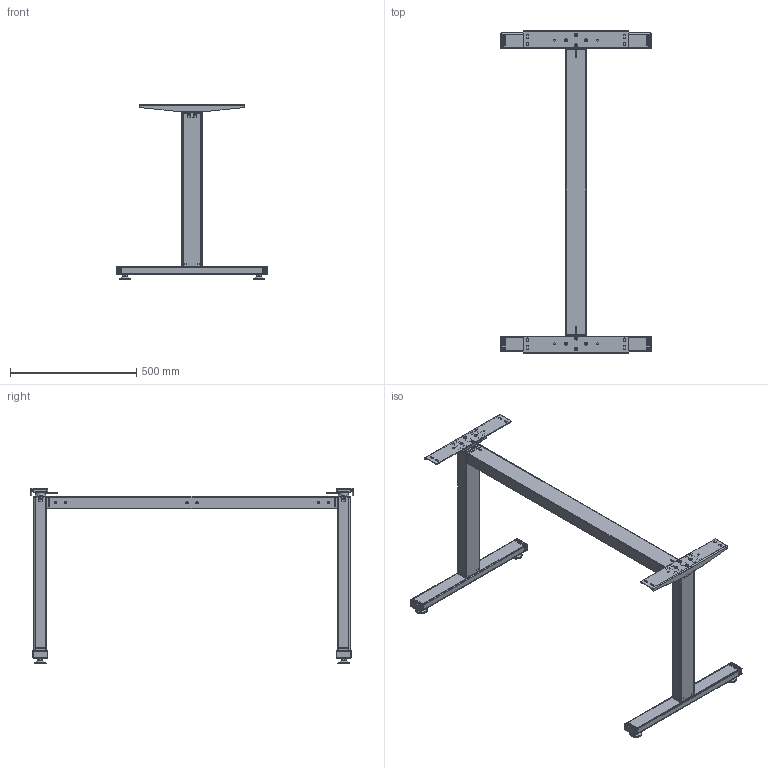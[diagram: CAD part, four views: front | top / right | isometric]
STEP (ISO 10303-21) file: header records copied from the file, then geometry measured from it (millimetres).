
FILE_DESCRIPTION(/* description */ ('Unknown'),/* implementation_level */ '2;1');
FILE_NAME(/* name */ '108.00032_02-Eingefahren',/* time_stamp */ '2022-02-09T10:58:15+01:00',/* author */ ('Unknown'),/* organization */ ('Unknown'),/* preprocessor_version */ 'ST-DEVELOPER v18.1',/* originating_system */ 'Solid Edge',/* authorisation */ 'Unknown');
FILE_SCHEMA (('AUTOMOTIVE_DESIGN {1 0 10303 214 3 1 1}'));
Length unit declared in the file: millimetre
Products named in the file (35): 108.00032; 306.00090_oa_0; 124.00004; 107.00147_oa_1; 115.00007_oa_2; 127.00038; 127.00034_oa_3; Aussenprofil TA 1450; 127.00032; 127.00035; Innenprofil TA 1450; Abschlussplatte; 127.00048; Schraube 2,9x6,4; 127.00034_2’403_2’488_Kehlnaht 1_oa_4; 113.00002_70mm; 142.00077; 306.00090_oa_5; 107.00147_oa_6; 115.00007_oa_7; 127.00034_oa_8; 127.00034_2’403_2’488_Kehlnaht 1_oa_9; 115.00153; 127.00372; 127.00073; 115.00080; 127.00069; 142.00095; 113.00006; 113.00006-ohne Mutter; Mutter M10; 142.00194; 142.00179; 115.00160; 127.00401
Assembly tree (71 placements, depth 4):
  108.00032
    306.00090_oa_0
      124.00004
      107.00147_oa_1
        115.00007_oa_2
      127.00038
      127.00034_oa_3
        Aussenprofil TA 1450
        127.00032
        127.00035
        Innenprofil TA 1450
        Abschlussplatte
        127.00048
        Schraube 2,9x6,4  x6
        127.00034_2’403_2’488_Kehlnaht 1_oa_4
      113.00002_70mm
      142.00077  x4
    306.00090_oa_5
      124.00004
      107.00147_oa_6
        115.00007_oa_7
      127.00038
      127.00034_oa_8
        Aussenprofil TA 1450
        127.00032
        127.00035
        Innenprofil TA 1450
        Abschlussplatte
        127.00048
        Schraube 2,9x6,4  x6
        127.00034_2’403_2’488_Kehlnaht 1_oa_9
      113.00002_70mm
      142.00077  x4
    115.00153
      127.00372
    127.00073  x2
      115.00080
        127.00069
        142.00095  x2
      113.00006
        113.00006-ohne Mutter
        Mutter M10
      142.00194
      142.00179
    115.00160  x2
      127.00401
      142.00077
Bounding box: 600 x 1276 x 695.5 mm (x, y, z)
Volume: 2604755.6 mm3; surface area: 2331381.1 mm2
Topology: 79 solids, 95 shells, 2938 faces, 6896 edges, 4152 vertices
Faces by surface type: plane 1156, cylinder 1060, bspline 258, cone 256, torus 168, sphere 40
Full cylindrical faces by diameter (mm): 2.2 x2, 2.5 x12, 2.9 x12, 4 x2, 4.917 x50, 5.8 x16, 6 x16, 6.5 x12, 6.647 x4, 6.8 x8, 7 x20, 8 x2, 8.376 x12, 9 x20, 9.5 x4, 10 x16, 10.5 x8, 12 x2, 13 x8, 13.5 x2, 15 x8, 16 x4, 19 x4, 20 x4, 25 x6, 28 x4, 29 x4, 35 x4, 39 x4, 47 x4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
Entity records: 34395 total; most frequent: CARTESIAN_POINT 7736, DIRECTION 4933, ORIENTED_EDGE 4506, EDGE_CURVE 2253, AXIS2_PLACEMENT_3D 1931, VERTEX_POINT 1485, EDGE_LOOP 1470, FACE_BOUND 1470
